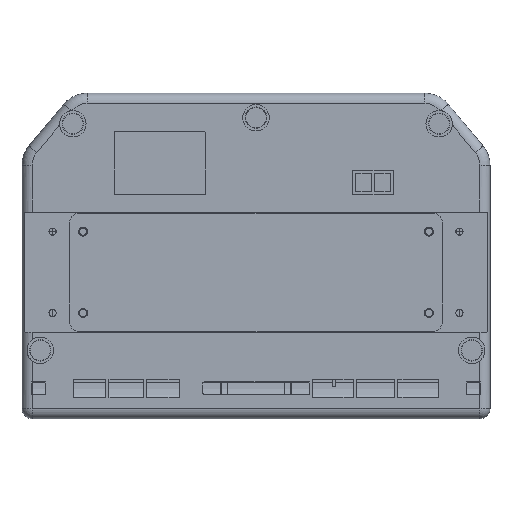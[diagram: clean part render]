
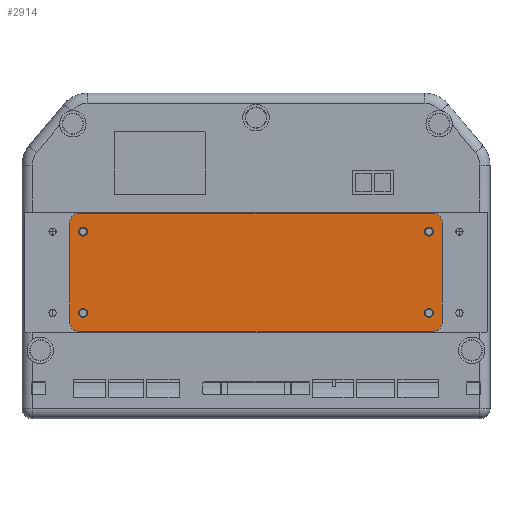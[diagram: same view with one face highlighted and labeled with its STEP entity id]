
A CAD part, front view. The second image highlights one B-rep face of the part: STEP entity #2914.
In plain terms, the highlighted planar face has unit normal (0, -1, 0).
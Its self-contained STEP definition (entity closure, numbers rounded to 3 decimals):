
#22 = ORIENTED_EDGE ( 'NONE', *, *, #12839, .F. ) ;
#25 = CARTESIAN_POINT ( 'NONE',  ( 87., 0., 16.5 ) ) ;
#132 = CARTESIAN_POINT ( 'NONE',  ( 87., 0., -37. ) ) ;
#175 = CARTESIAN_POINT ( 'NONE',  ( 87., 0., -32.5 ) ) ;
#190 = DIRECTION ( 'NONE',  ( 0., 0., 1. ) ) ;
#264 = FACE_BOUND ( 'NONE', #5168, .T. ) ;
#377 = CIRCLE ( 'NONE', #2682, 2.25 ) ;
#455 = DIRECTION ( 'NONE',  ( 0., 0., 1. ) ) ;
#632 = ORIENTED_EDGE ( 'NONE', *, *, #7199, .T. ) ;
#814 = EDGE_CURVE ( 'NONE', #11031, #13335, #14522, .T. ) ;
#910 = AXIS2_PLACEMENT_3D ( 'NONE', #5831, #10761, #5760 ) ;
#983 = VERTEX_POINT ( 'NONE', #4307 ) ;
#993 = AXIS2_PLACEMENT_3D ( 'NONE', #11840, #8275, #10573 ) ;
#1203 = VERTEX_POINT ( 'NONE', #5756 ) ;
#1544 = FACE_OUTER_BOUND ( 'NONE', #14495, .T. ) ;
#1663 = DIRECTION ( 'NONE',  ( 0., 1., 0. ) ) ;
#1800 = EDGE_CURVE ( 'NONE', #8669, #1203, #1894, .T. ) ;
#1894 = LINE ( 'NONE', #7061, #6369 ) ;
#1971 = VERTEX_POINT ( 'NONE', #5947 ) ;
#2222 = DIRECTION ( 'NONE',  ( 0., 0., 1. ) ) ;
#2256 = CARTESIAN_POINT ( 'NONE',  ( 85., 0., -25.75 ) ) ;
#2517 = VERTEX_POINT ( 'NONE', #10942 ) ;
#2657 = CARTESIAN_POINT ( 'NONE',  ( 32.5, 0., 43.5 ) ) ;
#2682 = AXIS2_PLACEMENT_3D ( 'NONE', #3703, #8560, #7366 ) ;
#2704 = AXIS2_PLACEMENT_3D ( 'NONE', #4335, #13624, #11578 ) ;
#2757 = CARTESIAN_POINT ( 'NONE',  ( 87., 0., -37. ) ) ;
#2878 = FACE_BOUND ( 'NONE', #12086, .T. ) ;
#2914 = ADVANCED_FACE ( 'NONE', ( #14986, #10054, #264, #2878, #1544 ), #9970, .F. ) ;
#3166 = DIRECTION ( 'NONE',  ( 0., 0., -1. ) ) ;
#3335 = DIRECTION ( 'NONE',  ( -1., 0., 0. ) ) ;
#3449 = VERTEX_POINT ( 'NONE', #15335 ) ;
#3540 = DIRECTION ( 'NONE',  ( 0., 1., 0. ) ) ;
#3547 = DIRECTION ( 'NONE',  ( 0., 1., 0. ) ) ;
#3624 = ORIENTED_EDGE ( 'NONE', *, *, #10102, .T. ) ;
#3685 = AXIS2_PLACEMENT_3D ( 'NONE', #25, #12025, #6074 ) ;
#3703 = CARTESIAN_POINT ( 'NONE',  ( -85., 0., -28. ) ) ;
#3770 = DIRECTION ( 'NONE',  ( 0., 0., 1. ) ) ;
#3796 = CARTESIAN_POINT ( 'NONE',  ( -91.5, 0., 16.5 ) ) ;
#3824 = ORIENTED_EDGE ( 'NONE', *, *, #3904, .F. ) ;
#3847 = CARTESIAN_POINT ( 'NONE',  ( -85., 0., -25.75 ) ) ;
#3863 = DIRECTION ( 'NONE',  ( 0., 0., 1. ) ) ;
#3904 = EDGE_CURVE ( 'NONE', #11719, #7426, #4584, .T. ) ;
#4159 = VERTEX_POINT ( 'NONE', #7525 ) ;
#4307 = CARTESIAN_POINT ( 'NONE',  ( -85., 0., 9.75 ) ) ;
#4335 = CARTESIAN_POINT ( 'NONE',  ( 85., 0., -28. ) ) ;
#4352 = CARTESIAN_POINT ( 'NONE',  ( -87., 0., 21. ) ) ;
#4584 = CIRCLE ( 'NONE', #4828, 4.5 ) ;
#4600 = DIRECTION ( 'NONE',  ( 0., 0., 1. ) ) ;
#4828 = AXIS2_PLACEMENT_3D ( 'NONE', #14606, #3540, #3770 ) ;
#4985 = ORIENTED_EDGE ( 'NONE', *, *, #1800, .F. ) ;
#5094 = ORIENTED_EDGE ( 'NONE', *, *, #814, .T. ) ;
#5168 = EDGE_LOOP ( 'NONE', ( #632, #6371 ) ) ;
#5184 = CIRCLE ( 'NONE', #14072, 4.5 ) ;
#5194 = LINE ( 'NONE', #14983, #7791 ) ;
#5339 = DIRECTION ( 'NONE',  ( 1., 0., 0. ) ) ;
#5463 = ORIENTED_EDGE ( 'NONE', *, *, #9039, .F. ) ;
#5636 = CARTESIAN_POINT ( 'NONE',  ( -85., 0., 12. ) ) ;
#5682 = CARTESIAN_POINT ( 'NONE',  ( -85., 0., -30.25 ) ) ;
#5756 = CARTESIAN_POINT ( 'NONE',  ( 91.5, 0., -32.5 ) ) ;
#5760 = DIRECTION ( 'NONE',  ( 0., 0., 1. ) ) ;
#5765 = ORIENTED_EDGE ( 'NONE', *, *, #15186, .F. ) ;
#5831 = CARTESIAN_POINT ( 'NONE',  ( -85., 0., -28. ) ) ;
#5947 = CARTESIAN_POINT ( 'NONE',  ( -91.5, 0., -32.5 ) ) ;
#6074 = DIRECTION ( 'NONE',  ( 0., 0., 1. ) ) ;
#6081 = ORIENTED_EDGE ( 'NONE', *, *, #15220, .T. ) ;
#6204 = ORIENTED_EDGE ( 'NONE', *, *, #6230, .T. ) ;
#6230 = EDGE_CURVE ( 'NONE', #13335, #11031, #14348, .T. ) ;
#6369 = VECTOR ( 'NONE', #3166, 1000. ) ;
#6371 = ORIENTED_EDGE ( 'NONE', *, *, #13241, .T. ) ;
#6707 = AXIS2_PLACEMENT_3D ( 'NONE', #5636, #6992, #4600 ) ;
#6838 = DIRECTION ( 'NONE',  ( 0., 1., 0. ) ) ;
#6992 = DIRECTION ( 'NONE',  ( 0., 1., 0. ) ) ;
#7061 = CARTESIAN_POINT ( 'NONE',  ( 91.5, 0., 16.5 ) ) ;
#7199 = EDGE_CURVE ( 'NONE', #7290, #10930, #7779, .T. ) ;
#7290 = VERTEX_POINT ( 'NONE', #3847 ) ;
#7366 = DIRECTION ( 'NONE',  ( 0., 0., 1. ) ) ;
#7426 = VERTEX_POINT ( 'NONE', #4352 ) ;
#7525 = CARTESIAN_POINT ( 'NONE',  ( -85., 0., 14.25 ) ) ;
#7549 = ORIENTED_EDGE ( 'NONE', *, *, #11529, .F. ) ;
#7779 = CIRCLE ( 'NONE', #910, 2.25 ) ;
#7791 = VECTOR ( 'NONE', #5339, 1000. ) ;
#7967 = CARTESIAN_POINT ( 'NONE',  ( 91.5, 0., 16.5 ) ) ;
#8108 = CARTESIAN_POINT ( 'NONE',  ( 85., 0., 12. ) ) ;
#8254 = VECTOR ( 'NONE', #2222, 1000. ) ;
#8275 = DIRECTION ( 'NONE',  ( 0., 1., 0. ) ) ;
#8336 = DIRECTION ( 'NONE',  ( 0., 0., 1. ) ) ;
#8380 = VERTEX_POINT ( 'NONE', #2256 ) ;
#8560 = DIRECTION ( 'NONE',  ( 0., 1., 0. ) ) ;
#8591 = ORIENTED_EDGE ( 'NONE', *, *, #14260, .T. ) ;
#8617 = EDGE_LOOP ( 'NONE', ( #8591, #6081 ) ) ;
#8658 = CIRCLE ( 'NONE', #12199, 4.5 ) ;
#8669 = VERTEX_POINT ( 'NONE', #7967 ) ;
#8940 = CARTESIAN_POINT ( 'NONE',  ( 87., 0., 21. ) ) ;
#8992 = CIRCLE ( 'NONE', #6707, 2.25 ) ;
#9039 = EDGE_CURVE ( 'NONE', #9168, #3449, #11913, .T. ) ;
#9168 = VERTEX_POINT ( 'NONE', #2757 ) ;
#9662 = ORIENTED_EDGE ( 'NONE', *, *, #13429, .F. ) ;
#9970 = PLANE ( 'NONE',  #12303 ) ;
#10034 = AXIS2_PLACEMENT_3D ( 'NONE', #8108, #11910, #8336 ) ;
#10054 = FACE_BOUND ( 'NONE', #8617, .T. ) ;
#10102 = EDGE_CURVE ( 'NONE', #8380, #2517, #12924, .T. ) ;
#10307 = EDGE_LOOP ( 'NONE', ( #5094, #6204 ) ) ;
#10314 = AXIS2_PLACEMENT_3D ( 'NONE', #11015, #14536, #3863 ) ;
#10573 = DIRECTION ( 'NONE',  ( 0., 0., 1. ) ) ;
#10647 = CARTESIAN_POINT ( 'NONE',  ( -87., 0., -32.5 ) ) ;
#10761 = DIRECTION ( 'NONE',  ( 0., 1., 0. ) ) ;
#10930 = VERTEX_POINT ( 'NONE', #5682 ) ;
#10942 = CARTESIAN_POINT ( 'NONE',  ( 85., 0., -30.25 ) ) ;
#11015 = CARTESIAN_POINT ( 'NONE',  ( -85., 0., 12. ) ) ;
#11031 = VERTEX_POINT ( 'NONE', #14526 ) ;
#11529 = EDGE_CURVE ( 'NONE', #1203, #9168, #8658, .T. ) ;
#11575 = CIRCLE ( 'NONE', #2704, 2.25 ) ;
#11578 = DIRECTION ( 'NONE',  ( 0., 0., 1. ) ) ;
#11719 = VERTEX_POINT ( 'NONE', #3796 ) ;
#11840 = CARTESIAN_POINT ( 'NONE',  ( 85., 0., -28. ) ) ;
#11910 = DIRECTION ( 'NONE',  ( 0., 1., 0. ) ) ;
#11913 = LINE ( 'NONE', #132, #14104 ) ;
#12025 = DIRECTION ( 'NONE',  ( 0., 1., 0. ) ) ;
#12086 = EDGE_LOOP ( 'NONE', ( #3624, #12900 ) ) ;
#12199 = AXIS2_PLACEMENT_3D ( 'NONE', #175, #1663, #455 ) ;
#12280 = VERTEX_POINT ( 'NONE', #8940 ) ;
#12303 = AXIS2_PLACEMENT_3D ( 'NONE', #2657, #14766, #190 ) ;
#12839 = EDGE_CURVE ( 'NONE', #1971, #11719, #13128, .T. ) ;
#12900 = ORIENTED_EDGE ( 'NONE', *, *, #14003, .T. ) ;
#12924 = CIRCLE ( 'NONE', #993, 2.25 ) ;
#13128 = LINE ( 'NONE', #14323, #8254 ) ;
#13241 = EDGE_CURVE ( 'NONE', #10930, #7290, #377, .T. ) ;
#13335 = VERTEX_POINT ( 'NONE', #14121 ) ;
#13429 = EDGE_CURVE ( 'NONE', #12280, #8669, #15376, .T. ) ;
#13624 = DIRECTION ( 'NONE',  ( 0., 1., 0. ) ) ;
#13991 = AXIS2_PLACEMENT_3D ( 'NONE', #14445, #3547, #14287 ) ;
#14003 = EDGE_CURVE ( 'NONE', #2517, #8380, #11575, .T. ) ;
#14072 = AXIS2_PLACEMENT_3D ( 'NONE', #10647, #6838, #15195 ) ;
#14104 = VECTOR ( 'NONE', #3335, 1000. ) ;
#14121 = CARTESIAN_POINT ( 'NONE',  ( 85., 0., 9.75 ) ) ;
#14260 = EDGE_CURVE ( 'NONE', #4159, #983, #15402, .T. ) ;
#14287 = DIRECTION ( 'NONE',  ( 0., 0., 1. ) ) ;
#14323 = CARTESIAN_POINT ( 'NONE',  ( -91.5, 0., -32.5 ) ) ;
#14348 = CIRCLE ( 'NONE', #10034, 2.25 ) ;
#14445 = CARTESIAN_POINT ( 'NONE',  ( 85., 0., 12. ) ) ;
#14495 = EDGE_LOOP ( 'NONE', ( #9662, #15460, #3824, #22, #5765, #5463, #7549, #4985 ) ) ;
#14522 = CIRCLE ( 'NONE', #13991, 2.25 ) ;
#14526 = CARTESIAN_POINT ( 'NONE',  ( 85., 0., 14.25 ) ) ;
#14536 = DIRECTION ( 'NONE',  ( 0., 1., 0. ) ) ;
#14603 = EDGE_CURVE ( 'NONE', #7426, #12280, #5194, .T. ) ;
#14606 = CARTESIAN_POINT ( 'NONE',  ( -87., 0., 16.5 ) ) ;
#14766 = DIRECTION ( 'NONE',  ( 0., 1., 0. ) ) ;
#14983 = CARTESIAN_POINT ( 'NONE',  ( -87., 0., 21. ) ) ;
#14986 = FACE_BOUND ( 'NONE', #10307, .T. ) ;
#15186 = EDGE_CURVE ( 'NONE', #3449, #1971, #5184, .T. ) ;
#15195 = DIRECTION ( 'NONE',  ( 0., 0., 1. ) ) ;
#15220 = EDGE_CURVE ( 'NONE', #983, #4159, #8992, .T. ) ;
#15335 = CARTESIAN_POINT ( 'NONE',  ( -87., 0., -37. ) ) ;
#15376 = CIRCLE ( 'NONE', #3685, 4.5 ) ;
#15402 = CIRCLE ( 'NONE', #10314, 2.25 ) ;
#15460 = ORIENTED_EDGE ( 'NONE', *, *, #14603, .F. ) ;
